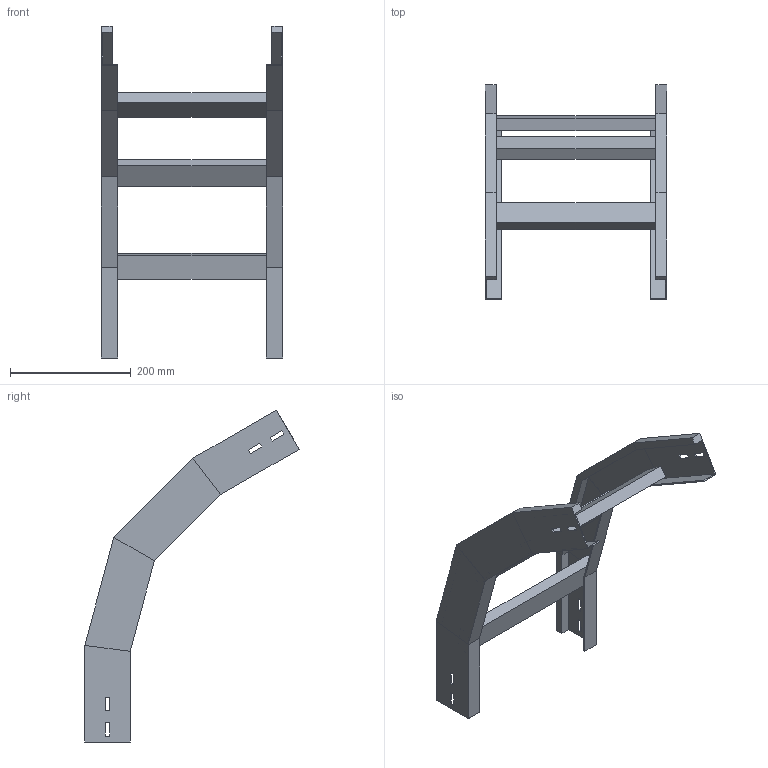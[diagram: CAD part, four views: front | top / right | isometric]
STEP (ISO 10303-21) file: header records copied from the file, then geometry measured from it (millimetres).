
FILE_DESCRIPTION (( 'STEP AP214' ), '1' );
FILE_NAME ('A2_41B3C300.step', '2025-02-21T14:59:57', ( '' ), ( '' ), 'SwSTEP 2.0', 'SolidWorks 2023', '' );
FILE_SCHEMA (( 'AUTOMOTIVE_DESIGN' ));
Length unit declared in the file: millimetre
Products named in the file (3): A2_41B3C300; TRAVERSINO_300; LONGH.DISCESA_60°_H75_R300
Assembly tree (5 placements, depth 2):
  A2_41B3C300
    LONGH.DISCESA_60°_H75_R300  x2
    TRAVERSINO_300  x3
Bounding box: 300 x 354.62 x 549.27 mm (x, y, z)
Volume: 1235267.7 mm3; surface area: 417330.3 mm2
Topology: 5 solids, 5 shells, 118 faces, 276 edges, 168 vertices
Faces by surface type: plane 118
Entity records: 1672 total; most frequent: CARTESIAN_POINT 276, ORIENTED_EDGE 264, DIRECTION 260, EDGE_CURVE 132, VECTOR 132, LINE 132, VERTEX_POINT 80, EDGE_LOOP 64
